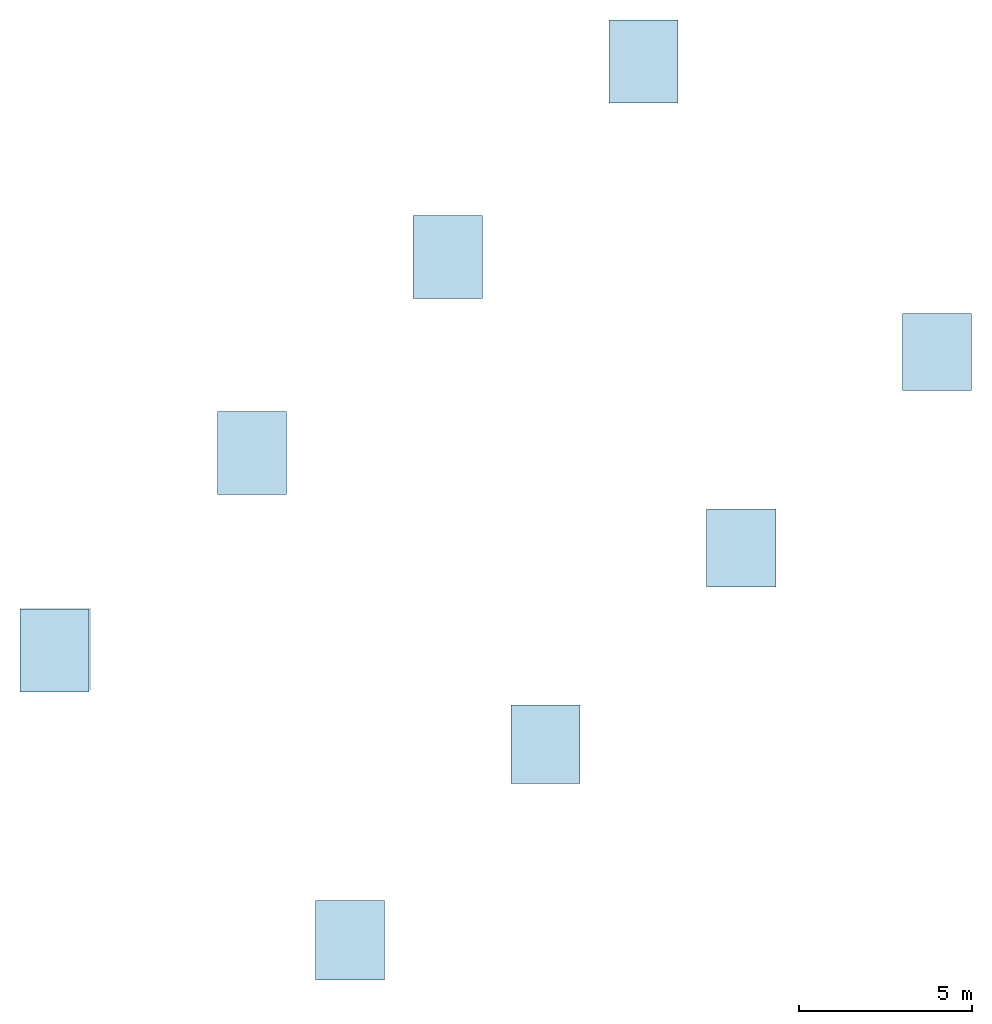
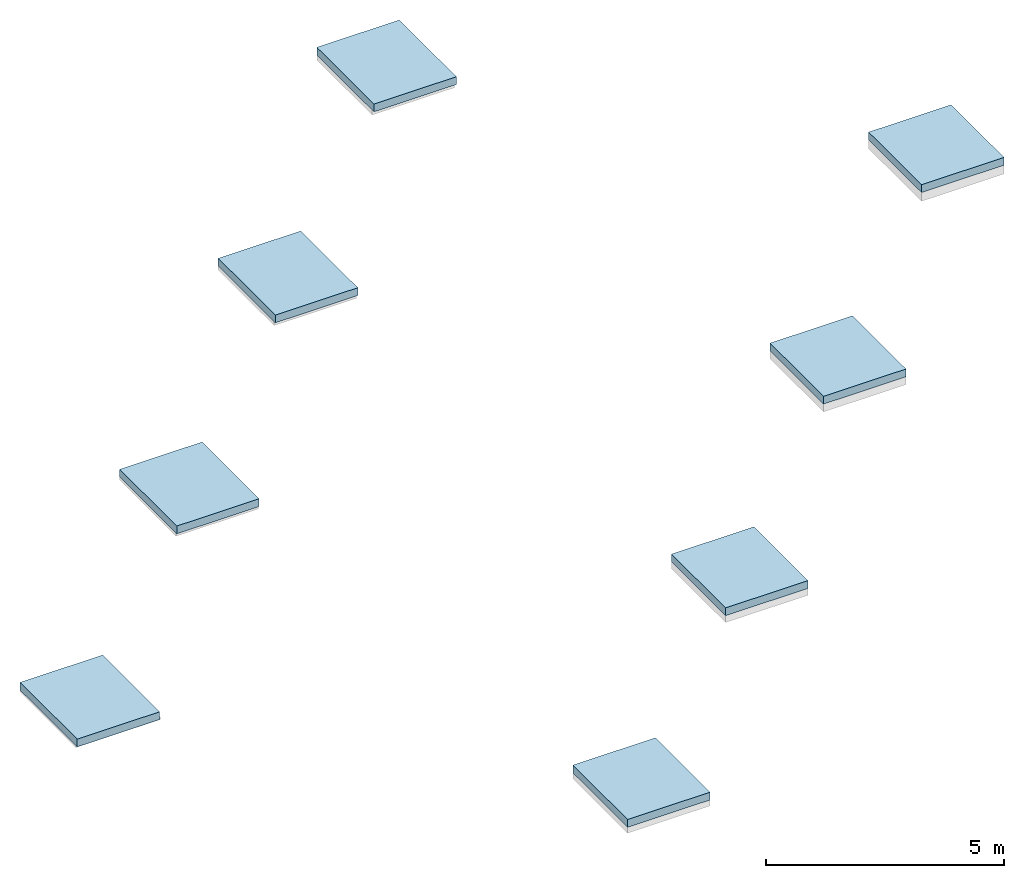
# One storey, part 1 of 2: 8 slabs.
"""IFC2X3 building model written with IfcOpenShell, lengths in millimetres."""

from ifc_helpers import new_model, entity, si_unit, converted_unit, derived_unit, direction, frame, frame_2d, origin, origin_2d_with_axis, place, context, subcontext, project, spatial, rectangle, extrude, material, layer, layer_set, layer_usage, type_object, element, save


model = new_model("IFC2X3")

# Units and contexts
model_context = context("Model", 3, precision=0.01, world=origin(), true_north=direction((6.12303176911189e-17, 1.0)))
context_of_model = context(None, 3, precision=0.01, world=origin(), true_north=direction((6.12303176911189e-17, 1.0)))
body_context = subcontext(model_context, "Body", "Model", "MODEL_VIEW")
ifc_project = project(units=[si_unit("LENGTHUNIT", "METRE", prefix="MILLI"), si_unit("AREAUNIT", "SQUARE_METRE"), si_unit("VOLUMEUNIT", "CUBIC_METRE"), converted_unit("PLANEANGLEUNIT", "DEGREE", entity("IfcRatioMeasure", 0.0174532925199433), si_unit("PLANEANGLEUNIT", "RADIAN"), dimensions=[0, 0, 0, 0, 0, 0, 0]), si_unit("MASSUNIT", "GRAM", prefix="KILO"), derived_unit("MASSDENSITYUNIT", [(si_unit("MASSUNIT", "GRAM", prefix="KILO"), 1), (si_unit("LENGTHUNIT", "METRE"), -3)]), derived_unit("MOMENTOFINERTIAUNIT", [(si_unit("LENGTHUNIT", "METRE"), 4)]), si_unit("TIMEUNIT", "SECOND"), si_unit("FREQUENCYUNIT", "HERTZ"), si_unit("THERMODYNAMICTEMPERATUREUNIT", "DEGREE_CELSIUS"), derived_unit("THERMALTRANSMITTANCEUNIT", [(si_unit("MASSUNIT", "GRAM", prefix="KILO"), 1), (si_unit("THERMODYNAMICTEMPERATUREUNIT", "KELVIN"), -1), (si_unit("TIMEUNIT", "SECOND"), -3)]), derived_unit("VOLUMETRICFLOWRATEUNIT", [(si_unit("LENGTHUNIT", "METRE"), 3), (si_unit("TIMEUNIT", "SECOND"), -1)]), si_unit("ELECTRICCURRENTUNIT", "AMPERE"), si_unit("ELECTRICVOLTAGEUNIT", "VOLT"), si_unit("POWERUNIT", "WATT"), si_unit("FORCEUNIT", "NEWTON", prefix="KILO"), si_unit("ILLUMINANCEUNIT", "LUX"), si_unit("LUMINOUSFLUXUNIT", "LUMEN"), si_unit("LUMINOUSINTENSITYUNIT", "CANDELA"), derived_unit("USERDEFINED", [(si_unit("MASSUNIT", "GRAM", prefix="KILO"), -1), (si_unit("LENGTHUNIT", "METRE"), -2), (si_unit("TIMEUNIT", "SECOND"), 3), (si_unit("LUMINOUSFLUXUNIT", "LUMEN"), 1)]), derived_unit("LINEARVELOCITYUNIT", [(si_unit("LENGTHUNIT", "METRE"), 1), (si_unit("TIMEUNIT", "SECOND"), -1)]), si_unit("PRESSUREUNIT", "PASCAL"), derived_unit("USERDEFINED", [(si_unit("LENGTHUNIT", "METRE"), -2), (si_unit("MASSUNIT", "GRAM", prefix="KILO"), 1), (si_unit("TIMEUNIT", "SECOND"), -2)]), derived_unit("LINEARFORCEUNIT", [(si_unit("MASSUNIT", "GRAM", prefix="KILO"), 1), (si_unit("LENGTHUNIT", "METRE"), 1), (si_unit("TIMEUNIT", "SECOND"), -2), (si_unit("LENGTHUNIT", "METRE"), -1)]), derived_unit("PLANARFORCEUNIT", [(si_unit("MASSUNIT", "GRAM", prefix="KILO"), 1), (si_unit("LENGTHUNIT", "METRE"), 1), (si_unit("TIMEUNIT", "SECOND"), -2), (si_unit("LENGTHUNIT", "METRE"), -2)])], contexts=[model_context, context_of_model])

# Site, building, storey
site_placement = place(None, origin())
site = spatial("IfcSite", under=ifc_project, at=site_placement, Name="Default", CompositionType="ELEMENT")
building_placement = place(site_placement, origin())
building = spatial("IfcBuilding", under=site, at=building_placement, CompositionType="ELEMENT")
storey_placement = place(building_placement, frame((0.0, 0.0, 1000.0)))
storey = spatial("IfcBuildingStorey", under=building, at=storey_placement, Name="01 eerste verdieping", CompositionType="ELEMENT", Elevation=1000.0)

# Slabs
ifc_material = material(Name="Concrete, Precast Panels")
ifc_layer = layer(ifc_material, 200.0)
ifc_layer_set = layer_set([ifc_layer], Name="Floor:Generic 200mm")
ifc_layer_usage_1 = layer_usage(ifc_layer_set, "AXIS3", "POSITIVE", 0.0)
slab_type_1 = type_object("IfcSlabType", Name="Floor:Generic 200mm", PredefinedType="FLOOR", material=ifc_layer_set)
slab_1_placement = place(storey_placement, origin())
element("IfcSlab", 1, at=slab_1_placement, inside=storey, type_object=slab_type_1, material=ifc_layer_usage_1, Name="Floor:Generic 200mm", ObjectType="Floor:Generic 200mm", PredefinedType="FLOOR", context=body_context, shape_type="SweptSolid", body=[
    extrude(rectangle(XDim=2400.0, YDim=2000.0, at=origin_2d_with_axis()), frame((945.0, 4095.0, 200.0), z_axis=(0.0, 0.0, -1.0), x_axis=(0.0, 1.0, 0.0)), (0.0, 0.0, 1.0), 200.0),
])
ifc_layer_usage_2 = layer_usage(ifc_layer_set, "AXIS3", "POSITIVE", 0.0)
slab_type_2 = type_object("IfcSlabType", Name="Floor:Generic 200mm", PredefinedType="FLOOR", material=ifc_layer_set)
slab_2_placement = place(storey_placement, origin())
element("IfcSlab", 2, at=slab_2_placement, inside=storey, type_object=slab_type_2, material=ifc_layer_usage_2, Name="Floor:Generic 200mm", ObjectType="Floor:Generic 200mm", PredefinedType="FLOOR", context=body_context, shape_type="SweptSolid", body=[
    extrude(rectangle(XDim=2400.0, YDim=2000.0, at=origin_2d_with_axis()), frame((6656.85424949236, 9806.85424949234, 200.0), z_axis=(0.0, 0.0, -1.0), x_axis=(0.0, 1.0, 0.0)), (0.0, 0.0, 1.0), 200.0),
])
ifc_layer_usage_3 = layer_usage(ifc_layer_set, "AXIS3", "POSITIVE", 0.0)
slab_type_3 = type_object("IfcSlabType", Name="Floor:Generic 200mm", PredefinedType="FLOOR", material=ifc_layer_set)
slab_3_placement = place(storey_placement, origin())
element("IfcSlab", 3, at=slab_3_placement, inside=storey, type_object=slab_type_3, material=ifc_layer_usage_3, Name="Floor:Generic 200mm", ObjectType="Floor:Generic 200mm", PredefinedType="FLOOR", context=body_context, shape_type="SweptSolid", body=[
    extrude(rectangle(XDim=2400.0, YDim=2000.0, at=origin_2d_with_axis()), frame((12313.7084989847, 15463.7084989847, 200.0), z_axis=(0.0, 0.0, -1.0), x_axis=(0.0, 1.0, 0.0)), (0.0, 0.0, 1.0), 200.0),
])
ifc_layer_usage_4 = layer_usage(ifc_layer_set, "AXIS3", "POSITIVE", 0.0)
slab_type_4 = type_object("IfcSlabType", Name="Floor:Generic 200mm", PredefinedType="FLOOR", material=ifc_layer_set)
slab_4_placement = place(storey_placement, origin())
element("IfcSlab", 4, at=slab_4_placement, inside=storey, type_object=slab_type_4, material=ifc_layer_usage_4, Name="Floor:Generic 200mm", ObjectType="Floor:Generic 200mm", PredefinedType="FLOOR", context=body_context, shape_type="SweptSolid", body=[
    extrude(rectangle(XDim=2400.0, YDim=2000.0, at=origin_2d_with_axis()), frame((17970.5627484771, 21120.5627484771, 200.0), z_axis=(0.0, 0.0, -1.0), x_axis=(0.0, 1.0, 0.0)), (0.0, 0.0, 1.0), 200.0),
])
ifc_layer_usage_5 = layer_usage(ifc_layer_set, "AXIS3", "POSITIVE", 0.0)
slab_type_5 = type_object("IfcSlabType", Name="Floor:Generic 200mm", PredefinedType="FLOOR", material=ifc_layer_set)
slab_5_placement = place(storey_placement, origin())
element("IfcSlab", 5, at=slab_5_placement, inside=storey, type_object=slab_type_5, material=ifc_layer_usage_5, Name="Floor:Generic 200mm", ObjectType="Floor:Generic 200mm", PredefinedType="FLOOR", context=body_context, shape_type="SweptSolid", body=[
    extrude(rectangle(XDim=2224.99999999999, YDim=2000.0, at=frame_2d((1.13686837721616e-12, -2.1600499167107e-12), x_axis=(1.0, 0.0))), frame((26455.8441227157, 12722.7813742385, 200.0), z_axis=(0.0, 0.0, -1.0), x_axis=(0.0, 1.0, 0.0)), (0.0, 0.0, 1.0), 200.0),
])
ifc_layer_usage_6 = layer_usage(ifc_layer_set, "AXIS3", "POSITIVE", 0.0)
slab_type_6 = type_object("IfcSlabType", Name="Floor:Generic 200mm", PredefinedType="FLOOR", material=ifc_layer_set)
slab_6_placement = place(storey_placement, origin())
element("IfcSlab", 6, at=slab_6_placement, inside=storey, type_object=slab_type_6, material=ifc_layer_usage_6, Name="Floor:Generic 200mm", ObjectType="Floor:Generic 200mm", PredefinedType="FLOOR", context=body_context, shape_type="SweptSolid", body=[
    extrude(rectangle(XDim=2249.99999999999, YDim=2000.0, at=frame_2d((0.0, 2.1600499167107e-12), x_axis=(1.0, 0.0))), frame((20798.9898732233, 7053.42712474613, 200.0), z_axis=(0.0, 0.0, -1.0), x_axis=(0.0, 1.0, 0.0)), (0.0, 0.0, 1.0), 200.0),
])
ifc_layer_usage_7 = layer_usage(ifc_layer_set, "AXIS3", "POSITIVE", 0.0)
slab_type_7 = type_object("IfcSlabType", Name="Floor:Generic 200mm", PredefinedType="FLOOR", material=ifc_layer_set)
slab_7_placement = place(storey_placement, origin())
element("IfcSlab", 7, at=slab_7_placement, inside=storey, type_object=slab_type_7, material=ifc_layer_usage_7, Name="Floor:Generic 200mm", ObjectType="Floor:Generic 200mm", PredefinedType="FLOOR", context=body_context, shape_type="SweptSolid", body=[
    extrude(rectangle(XDim=2274.99999999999, YDim=2000.0, at=frame_2d((1.13686837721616e-13, 0.0), x_axis=(1.0, 0.0))), frame((15142.1356237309, 1384.07287525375, 200.0), z_axis=(0.0, 0.0, -1.0), x_axis=(0.0, 1.0, 0.0)), (0.0, 0.0, 1.0), 200.0),
])
ifc_layer_usage_8 = layer_usage(ifc_layer_set, "AXIS3", "POSITIVE", 0.0)
slab_type_8 = type_object("IfcSlabType", Name="Floor:Generic 200mm", PredefinedType="FLOOR", material=ifc_layer_set)
slab_8_placement = place(storey_placement, origin())
element("IfcSlab", 8, at=slab_8_placement, inside=storey, type_object=slab_type_8, material=ifc_layer_usage_8, Name="Floor:Generic 200mm", ObjectType="Floor:Generic 200mm", PredefinedType="FLOOR", context=body_context, shape_type="SweptSolid", body=[
    extrude(rectangle(XDim=2299.99999999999, YDim=2000.0, at=origin_2d_with_axis()), frame((9485.28137423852, -4285.28137423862, 200.0), z_axis=(0.0, 0.0, -1.0), x_axis=(0.0, 1.0, 0.0)), (0.0, 0.0, 1.0), 200.0),
])

save(model, "model.ifc")
